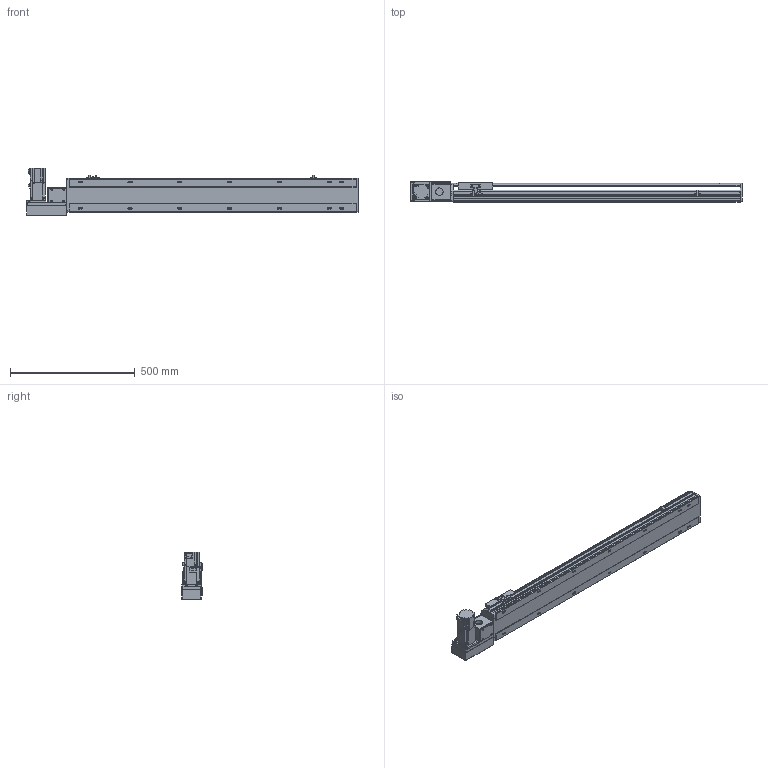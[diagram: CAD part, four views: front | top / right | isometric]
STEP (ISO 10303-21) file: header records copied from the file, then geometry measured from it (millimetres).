
FILE_DESCRIPTION(/* description */ ('STEP AP214'),/* implementation_level */ '2;1');
FILE_NAME(/* name */ 'PBS140-P40-S900-L-T40-C1-N(0)',/* time_stamp */ '2022-06-06T03:01:23+02:00',/* author */ ('License CC BY-ND 4.0'),/* organization */ ('CADENAS'),/* preprocessor_version */ 'ST-DEVELOPER v18.102',/* originating_system */ 'PARTsolutions',/* authorisation */ ' ');
FILE_SCHEMA (('AUTOMOTIVE_DESIGN {1 0 10303 214 3 1 1}'));
Length unit declared in the file: millimetre
Products named in the file (7): PBS140-P40-S900-L-T40-C1-N(0); PBS140_sensor; PBS140_plant; PBS140_sliser; T40-p1; PBS140T-L_motors; PBS140-S900()_body
Assembly tree (8 placements, depth 2):
  PBS140-P40-S900-L-T40-C1-N(0)
    PBS140_sensor  x3
    PBS140_plant
    PBS140_sliser
    T40-p1
    PBS140T-L_motors
    PBS140-S900()_body
Bounding box: 1333 x 80.5 x 189.7 mm (x, y, z)
Volume: 6092181.9 mm3; surface area: 1070979.4 mm2
Topology: 8 solids, 8 shells, 1059 faces, 2796 edges, 1827 vertices
Faces by surface type: plane 686, cylinder 323, cone 40, sphere 8, torus 2
Full cylindrical faces by diameter (mm): 3.242 x4, 4 x2, 4.134 x4, 4.4 x8, 4.5 x2, 4.8 x4, 4.917 x22, 5.5 x7, 6 x2, 7 x16, 7.5 x8, 8 x12, 8.5 x4, 10.5 x14, 14 x1, 30 x2, 50 x2
Entity records: 30187 total; most frequent: CARTESIAN_POINT 5553, DIRECTION 5127, ORIENTED_EDGE 4852, EDGE_CURVE 2426, AXIS2_PLACEMENT_3D 1777, VERTEX_POINT 1677, LINE 1573, VECTOR 1573
